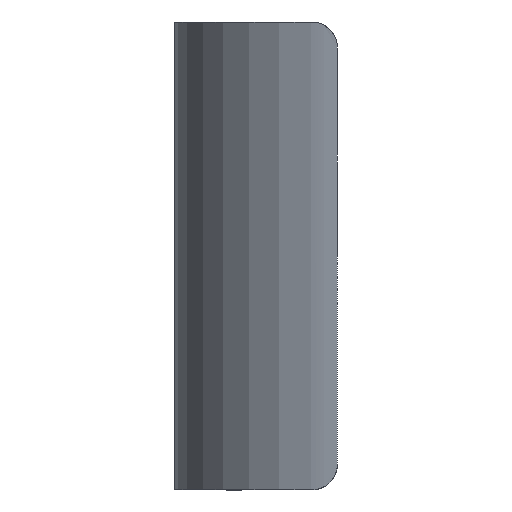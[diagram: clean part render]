
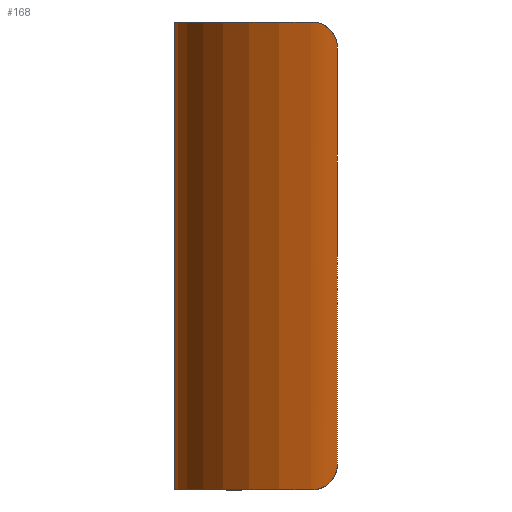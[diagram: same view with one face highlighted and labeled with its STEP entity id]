
A CAD part, left-side view. The second image highlights one B-rep face of the part: STEP entity #168.
In plain terms, the highlighted cylindrical face has radius 16.5 mm (diameter 33 mm), a partial arc.
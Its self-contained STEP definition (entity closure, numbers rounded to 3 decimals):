
#12 = CARTESIAN_POINT ( 'NONE',  ( -58.069, 5.465, 17.94 ) ) ;
#38 = CARTESIAN_POINT ( 'NONE',  ( -57.884, 5.965, -18. ) ) ;
#63 = CARTESIAN_POINT ( 'NONE',  ( -58.111, 5.343, -17.905 ) ) ;
#114 = CARTESIAN_POINT ( 'NONE',  ( -42.5, 0., 18. ) ) ;
#116 = FACE_OUTER_BOUND ( 'NONE', #1220, .T. ) ;
#124 = CARTESIAN_POINT ( 'NONE',  ( -58.462, 4.178, 16.906 ) ) ;
#151 = ORIENTED_EDGE ( 'NONE', *, *, #557, .T. ) ;
#168 = ADVANCED_FACE ( 'NONE', ( #116 ), #1338, .T. ) ;
#177 = EDGE_CURVE ( 'NONE', #1286, #295, #734, .T. ) ;
#198 = DIRECTION ( 'NONE',  ( 0., 0., 1. ) ) ;
#203 = CARTESIAN_POINT ( 'NONE',  ( -58.228, 4.99, -17.751 ) ) ;
#211 = CARTESIAN_POINT ( 'NONE',  ( -58.326, 4.668, -17.528 ) ) ;
#253 = ORIENTED_EDGE ( 'NONE', *, *, #1519, .F. ) ;
#268 = CARTESIAN_POINT ( 'NONE',  ( -58.516, 3.965, 18. ) ) ;
#272 = VERTEX_POINT ( 'NONE', #625 ) ;
#295 = VERTEX_POINT ( 'NONE', #495 ) ;
#302 = CARTESIAN_POINT ( 'NONE',  ( -57.933, 5.839, -18. ) ) ;
#312 = ORIENTED_EDGE ( 'NONE', *, *, #633, .F. ) ;
#315 = DIRECTION ( 'NONE',  ( 1., 0., 0. ) ) ;
#319 = CARTESIAN_POINT ( 'NONE',  ( -58.445, 4.244, -17.026 ) ) ;
#324 = CARTESIAN_POINT ( 'NONE',  ( -58.516, 3.965, -16. ) ) ;
#325 = VECTOR ( 'NONE', #1224, 1000. ) ;
#353 = CARTESIAN_POINT ( 'NONE',  ( -58.231, 4.984, 17.762 ) ) ;
#357 = VERTEX_POINT ( 'NONE', #400 ) ;
#377 = CARTESIAN_POINT ( 'NONE',  ( -57.884, 5.965, 18. ) ) ;
#394 = ORIENTED_EDGE ( 'NONE', *, *, #548, .T. ) ;
#400 = CARTESIAN_POINT ( 'NONE',  ( -58.516, 3.965, -16. ) ) ;
#415 = EDGE_CURVE ( 'NONE', #659, #1286, #1445, .T. ) ;
#489 = ORIENTED_EDGE ( 'NONE', *, *, #1168, .T. ) ;
#493 = CARTESIAN_POINT ( 'NONE',  ( -58.446, 4.241, 17.022 ) ) ;
#495 = CARTESIAN_POINT ( 'NONE',  ( -29.175, 9.731, -10.702 ) ) ;
#508 = DIRECTION ( 'NONE',  ( 1., 0., 0. ) ) ;
#516 = DIRECTION ( 'NONE',  ( 0., 0., -1. ) ) ;
#538 = CARTESIAN_POINT ( 'NONE',  ( -31.001, 11.919, 15.874 ) ) ;
#548 = EDGE_CURVE ( 'NONE', #295, #954, #1232, .T. ) ;
#557 = EDGE_CURVE ( 'NONE', #821, #357, #763, .T. ) ;
#566 = CARTESIAN_POINT ( 'NONE',  ( -58.462, 4.178, -16.908 ) ) ;
#591 = CARTESIAN_POINT ( 'NONE',  ( -29.175, 9.731, 10.702 ) ) ;
#592 = DIRECTION ( 'NONE',  ( 0., 0., -1. ) ) ;
#596 = CARTESIAN_POINT ( 'NONE',  ( -57.884, 5.965, 18. ) ) ;
#625 = CARTESIAN_POINT ( 'NONE',  ( -58.516, 3.965, 16. ) ) ;
#633 = EDGE_CURVE ( 'NONE', #659, #1073, #1170, .T. ) ;
#659 = VERTEX_POINT ( 'NONE', #1590 ) ;
#668 = CARTESIAN_POINT ( 'NONE',  ( -30.017, 10.884, -13.428 ) ) ;
#671 = CARTESIAN_POINT ( 'NONE',  ( -57.884, 5.965, -18. ) ) ;
#681 = CARTESIAN_POINT ( 'NONE',  ( -58.191, 5.104, -17.81 ) ) ;
#687 = CARTESIAN_POINT ( 'NONE',  ( -58.404, 4.394, -17.245 ) ) ;
#704 = DIRECTION ( 'NONE',  ( -1., 0., 0. ) ) ;
#707 = CARTESIAN_POINT ( 'NONE',  ( -58.516, 3.965, -16.271 ) ) ;
#722 = CARTESIAN_POINT ( 'NONE',  ( -58.3, 4.76, 17.617 ) ) ;
#733 = AXIS2_PLACEMENT_3D ( 'NONE', #816, #198, #315 ) ;
#734 = LINE ( 'NONE', #1606, #325 ) ;
#739 = B_SPLINE_CURVE_WITH_KNOTS ( 'NONE', 3,
 ( #1254, #869, #985, #968, #1490, #124, #493, #1235, #1382, #722, #353, #851, #12, #1498, #873, #377 ),
 .UNSPECIFIED., .F., .F.,
 ( 4, 2, 2, 2, 2, 2, 2, 4 ),
 ( 0., 0., 0.001, 0.001, 0.002, 0.002, 0.003, 0.003 ),
 .UNSPECIFIED. ) ;
#753 = CIRCLE ( 'NONE', #1056, 16.5 ) ;
#763 = B_SPLINE_CURVE_WITH_KNOTS ( 'NONE', 3,
 ( #671, #302, #1569, #798, #63, #681, #203, #1341, #211, #1067, #687, #319, #566, #1192, #707, #324 ),
 .UNSPECIFIED., .F., .F.,
 ( 4, 2, 2, 2, 2, 2, 2, 4 ),
 ( 0., 0., 0.001, 0.001, 0.002, 0.002, 0.002, 0.003 ),
 .UNSPECIFIED. ) ;
#798 = CARTESIAN_POINT ( 'NONE',  ( -58.069, 5.467, -17.941 ) ) ;
#816 = CARTESIAN_POINT ( 'NONE',  ( -42.5, 0., 18. ) ) ;
#821 = VERTEX_POINT ( 'NONE', #38 ) ;
#851 = CARTESIAN_POINT ( 'NONE',  ( -58.112, 5.341, 17.904 ) ) ;
#869 = CARTESIAN_POINT ( 'NONE',  ( -58.516, 3.965, 16.136 ) ) ;
#873 = CARTESIAN_POINT ( 'NONE',  ( -57.933, 5.839, 18. ) ) ;
#875 = CARTESIAN_POINT ( 'NONE',  ( -42.5, 0., -18. ) ) ;
#954 = VERTEX_POINT ( 'NONE', #1225 ) ;
#968 = CARTESIAN_POINT ( 'NONE',  ( -58.5, 4.032, 16.53 ) ) ;
#969 = ORIENTED_EDGE ( 'NONE', *, *, #177, .T. ) ;
#985 = CARTESIAN_POINT ( 'NONE',  ( -58.513, 3.979, 16.269 ) ) ;
#1011 = VECTOR ( 'NONE', #516, 1000. ) ;
#1026 = CARTESIAN_POINT ( 'NONE',  ( -30.017, 10.884, 13.428 ) ) ;
#1042 = ORIENTED_EDGE ( 'NONE', *, *, #415, .T. ) ;
#1047 = CARTESIAN_POINT ( 'NONE',  ( -32.111, 12.819, -18. ) ) ;
#1056 = AXIS2_PLACEMENT_3D ( 'NONE', #875, #1274, #508 ) ;
#1067 = CARTESIAN_POINT ( 'NONE',  ( -58.381, 4.479, -17.345 ) ) ;
#1073 = VERTEX_POINT ( 'NONE', #596 ) ;
#1138 = AXIS2_PLACEMENT_3D ( 'NONE', #114, #592, #704 ) ;
#1168 = EDGE_CURVE ( 'NONE', #954, #821, #753, .T. ) ;
#1170 = CIRCLE ( 'NONE', #733, 16.5 ) ;
#1192 = CARTESIAN_POINT ( 'NONE',  ( -58.503, 4.021, -16.54 ) ) ;
#1220 = EDGE_LOOP ( 'NONE', ( #489, #151, #253, #1400, #312, #1042, #969, #394 ) ) ;
#1224 = DIRECTION ( 'NONE',  ( 0., 0., -1. ) ) ;
#1225 = CARTESIAN_POINT ( 'NONE',  ( -32.111, 12.819, -18. ) ) ;
#1232 =( BOUNDED_CURVE ( )  B_SPLINE_CURVE ( 3, ( #1446, #668, #1560, #1047 ),
 .UNSPECIFIED., .F., .F. ) 
 B_SPLINE_CURVE_WITH_KNOTS ( ( 4, 4 ),
 ( 5.343, 5.602 ),
 .UNSPECIFIED. ) 
 CURVE ( )  GEOMETRIC_REPRESENTATION_ITEM ( )  RATIONAL_B_SPLINE_CURVE ( ( 1., 0.994, 0.994, 1. ) ) 
 REPRESENTATION_ITEM ( '' )  );
#1235 = CARTESIAN_POINT ( 'NONE',  ( -58.405, 4.392, 17.242 ) ) ;
#1254 = CARTESIAN_POINT ( 'NONE',  ( -58.516, 3.965, 16. ) ) ;
#1274 = DIRECTION ( 'NONE',  ( 0., 0., 1. ) ) ;
#1286 = VERTEX_POINT ( 'NONE', #591 ) ;
#1294 = CARTESIAN_POINT ( 'NONE',  ( -32.111, 12.819, 18. ) ) ;
#1338 = CYLINDRICAL_SURFACE ( 'NONE', #1138, 16.5 ) ;
#1341 = CARTESIAN_POINT ( 'NONE',  ( -58.295, 4.772, -17.61 ) ) ;
#1356 = LINE ( 'NONE', #268, #1011 ) ;
#1369 = EDGE_CURVE ( 'NONE', #272, #1073, #739, .T. ) ;
#1382 = CARTESIAN_POINT ( 'NONE',  ( -58.381, 4.478, 17.344 ) ) ;
#1400 = ORIENTED_EDGE ( 'NONE', *, *, #1369, .T. ) ;
#1406 = CARTESIAN_POINT ( 'NONE',  ( -29.175, 9.731, 10.702 ) ) ;
#1445 =( BOUNDED_CURVE ( )  B_SPLINE_CURVE ( 3, ( #1294, #538, #1026, #1406 ),
 .UNSPECIFIED., .F., .F. ) 
 B_SPLINE_CURVE_WITH_KNOTS ( ( 4, 4 ),
 ( 3.823, 4.082 ),
 .UNSPECIFIED. ) 
 CURVE ( )  GEOMETRIC_REPRESENTATION_ITEM ( )  RATIONAL_B_SPLINE_CURVE ( ( 1., 0.994, 0.994, 1. ) ) 
 REPRESENTATION_ITEM ( '' )  );
#1446 = CARTESIAN_POINT ( 'NONE',  ( -29.175, 9.731, -10.702 ) ) ;
#1490 = CARTESIAN_POINT ( 'NONE',  ( -58.49, 4.073, 16.66 ) ) ;
#1498 = CARTESIAN_POINT ( 'NONE',  ( -57.98, 5.714, 17.988 ) ) ;
#1519 = EDGE_CURVE ( 'NONE', #272, #357, #1356, .T. ) ;
#1560 = CARTESIAN_POINT ( 'NONE',  ( -31.001, 11.919, -15.874 ) ) ;
#1569 = CARTESIAN_POINT ( 'NONE',  ( -57.98, 5.714, -17.988 ) ) ;
#1590 = CARTESIAN_POINT ( 'NONE',  ( -32.111, 12.819, 18. ) ) ;
#1606 = CARTESIAN_POINT ( 'NONE',  ( -29.175, 9.731, 18. ) ) ;
